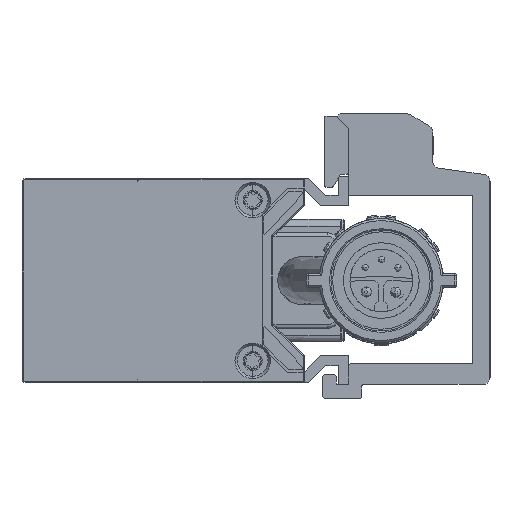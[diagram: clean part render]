
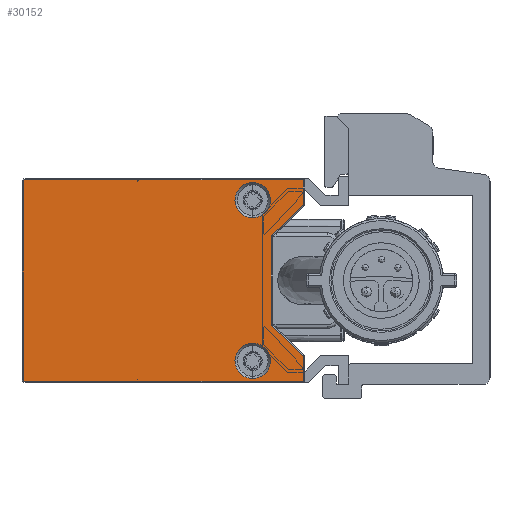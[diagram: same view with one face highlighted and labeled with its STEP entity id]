
A CAD part, left-side view. The second image highlights one B-rep face of the part: STEP entity #30152.
In plain terms, the highlighted planar face has unit normal (-1, 0, 0).
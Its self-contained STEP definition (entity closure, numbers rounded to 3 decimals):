
#296 = CARTESIAN_POINT ( 'NONE',  ( -450., 47.5, -14.8 ) ) ;
#606 = EDGE_LOOP ( 'NONE', ( #40548, #41292, #34625, #60893, #18137, #47678, #31335, #59928, #63552, #1488, #51422, #54455 ) ) ;
#1291 = EDGE_CURVE ( 'NONE', #42163, #47792, #4565, .T. ) ;
#1488 = ORIENTED_EDGE ( 'NONE', *, *, #61665, .T. ) ;
#1619 = AXIS2_PLACEMENT_3D ( 'NONE', #59811, #3216, #23291 ) ;
#1657 = CARTESIAN_POINT ( 'NONE',  ( -450., 11.399, -6.415 ) ) ;
#1764 = CARTESIAN_POINT ( 'NONE',  ( -450., 11.399, -6.415 ) ) ;
#2610 = CARTESIAN_POINT ( 'NONE',  ( -450., 11.278, 6.703 ) ) ;
#2999 = DIRECTION ( 'NONE',  ( -1., 0., 0. ) ) ;
#3216 = DIRECTION ( 'NONE',  ( -1., 0., 0. ) ) ;
#3309 = DIRECTION ( 'NONE',  ( 0., 0.718, -0.696 ) ) ;
#3679 = DIRECTION ( 'NONE',  ( -1., 0., 0. ) ) ;
#3922 = DIRECTION ( 'NONE',  ( 0., 0., 1. ) ) ;
#4565 = LINE ( 'NONE', #65176, #41893 ) ;
#4969 = DIRECTION ( 'NONE',  ( 0., 1., 0. ) ) ;
#5064 = EDGE_CURVE ( 'NONE', #31380, #49254, #8840, .T. ) ;
#5556 = EDGE_CURVE ( 'NONE', #47792, #8364, #44489, .T. ) ;
#5956 = DIRECTION ( 'NONE',  ( 0., 0., -1. ) ) ;
#6373 = CARTESIAN_POINT ( 'NONE',  ( -450., 11.278, -6.703 ) ) ;
#7271 = CARTESIAN_POINT ( 'NONE',  ( -450., 10.999, 6.415 ) ) ;
#7911 = FACE_OUTER_BOUND ( 'NONE', #606, .T. ) ;
#8364 = VERTEX_POINT ( 'NONE', #42660 ) ;
#8840 = LINE ( 'NONE', #60522, #11978 ) ;
#8966 = AXIS2_PLACEMENT_3D ( 'NONE', #62952, #58316, #50052 ) ;
#9145 = AXIS2_PLACEMENT_3D ( 'NONE', #33970, #3679, #29021 ) ;
#9371 = LINE ( 'NONE', #18259, #27014 ) ;
#10664 = CIRCLE ( 'NONE', #21170, 0.4 ) ;
#11978 = VECTOR ( 'NONE', #44046, 1000. ) ;
#12362 = VECTOR ( 'NONE', #56140, 1000. ) ;
#12519 = CARTESIAN_POINT ( 'NONE',  ( -450., 47.8, -14.5 ) ) ;
#12579 = VERTEX_POINT ( 'NONE', #24944 ) ;
#13774 = EDGE_CURVE ( 'NONE', #33523, #50064, #51017, .T. ) ;
#14701 = EDGE_CURVE ( 'NONE', #22560, #12579, #15787, .T. ) ;
#14798 = CARTESIAN_POINT ( 'NONE',  ( -450., 14.134, -14.4 ) ) ;
#15787 = CIRCLE ( 'NONE', #53651, 0.4 ) ;
#16992 = CIRCLE ( 'NONE', #35922, 2.6 ) ;
#18137 = ORIENTED_EDGE ( 'NONE', *, *, #38694, .F. ) ;
#18259 = CARTESIAN_POINT ( 'NONE',  ( -450., 6.7, -14.8 ) ) ;
#19290 = VERTEX_POINT ( 'NONE', #296 ) ;
#19977 = AXIS2_PLACEMENT_3D ( 'NONE', #48072, #2999, #38874 ) ;
#20185 = LINE ( 'NONE', #6373, #12362 ) ;
#20519 = CARTESIAN_POINT ( 'NONE',  ( -450., 6.7, 11.135 ) ) ;
#20737 = CARTESIAN_POINT ( 'NONE',  ( -450., 47.5, -14.5 ) ) ;
#21170 = AXIS2_PLACEMENT_3D ( 'NONE', #50302, #60835, #30855 ) ;
#21731 = DIRECTION ( 'NONE',  ( 1., 0., 0. ) ) ;
#21922 = CARTESIAN_POINT ( 'NONE',  ( -450., 47.8, 14.5 ) ) ;
#22367 = LINE ( 'NONE', #1657, #34179 ) ;
#22521 = CIRCLE ( 'NONE', #43531, 0.3 ) ;
#22560 = VERTEX_POINT ( 'NONE', #2610 ) ;
#22724 = LINE ( 'NONE', #48407, #60061 ) ;
#23291 = DIRECTION ( 'NONE',  ( 0., 0., -1. ) ) ;
#24211 = EDGE_CURVE ( 'NONE', #19290, #38531, #27706, .T. ) ;
#24896 = EDGE_LOOP ( 'NONE', ( #49444, #35665 ) ) ;
#24944 = CARTESIAN_POINT ( 'NONE',  ( -450., 11.399, 6.415 ) ) ;
#26643 = EDGE_CURVE ( 'NONE', #42163, #22560, #22724, .T. ) ;
#27014 = VECTOR ( 'NONE', #44274, 1000. ) ;
#27076 = VECTOR ( 'NONE', #52080, 1000. ) ;
#27706 = LINE ( 'NONE', #42535, #27076 ) ;
#29021 = DIRECTION ( 'NONE',  ( 0., 0., -1. ) ) ;
#30152 = ADVANCED_FACE ( 'NONE', ( #32952, #53024, #7911 ), #58303, .T. ) ;
#30855 = DIRECTION ( 'NONE',  ( 0., 1., 0. ) ) ;
#31335 = ORIENTED_EDGE ( 'NONE', *, *, #40883, .T. ) ;
#31380 = VERTEX_POINT ( 'NONE', #21922 ) ;
#31948 = DIRECTION ( 'NONE',  ( 1., 0., 0. ) ) ;
#32522 = CARTESIAN_POINT ( 'NONE',  ( -450., 11.278, -6.703 ) ) ;
#32952 = FACE_BOUND ( 'NONE', #43754, .T. ) ;
#33523 = VERTEX_POINT ( 'NONE', #56939 ) ;
#33554 = VERTEX_POINT ( 'NONE', #32522 ) ;
#33970 = CARTESIAN_POINT ( 'NONE',  ( -450., 14.134, -11.8 ) ) ;
#34063 = DIRECTION ( 'NONE',  ( 0., 0., 1. ) ) ;
#34179 = VECTOR ( 'NONE', #46750, 1000. ) ;
#34404 = CIRCLE ( 'NONE', #47028, 0.3 ) ;
#34625 = ORIENTED_EDGE ( 'NONE', *, *, #63889, .F. ) ;
#35665 = ORIENTED_EDGE ( 'NONE', *, *, #53450, .F. ) ;
#35922 = AXIS2_PLACEMENT_3D ( 'NONE', #39650, #59723, #34063 ) ;
#37426 = CIRCLE ( 'NONE', #1619, 2.6 ) ;
#38531 = VERTEX_POINT ( 'NONE', #49459 ) ;
#38694 = EDGE_CURVE ( 'NONE', #19290, #49254, #22521, .T. ) ;
#38874 = DIRECTION ( 'NONE',  ( 0., 0., 1. ) ) ;
#39650 = CARTESIAN_POINT ( 'NONE',  ( -450., 14.134, -11.8 ) ) ;
#39918 = CARTESIAN_POINT ( 'NONE',  ( -450., 14.134, 9.2 ) ) ;
#40548 = ORIENTED_EDGE ( 'NONE', *, *, #1291, .T. ) ;
#40706 = ORIENTED_EDGE ( 'NONE', *, *, #63753, .F. ) ;
#40883 = EDGE_CURVE ( 'NONE', #38531, #43048, #9371, .T. ) ;
#41292 = ORIENTED_EDGE ( 'NONE', *, *, #5556, .T. ) ;
#41886 = DIRECTION ( 'NONE',  ( -1., 0., 0. ) ) ;
#41893 = VECTOR ( 'NONE', #3922, 1000. ) ;
#42163 = VERTEX_POINT ( 'NONE', #20519 ) ;
#42535 = CARTESIAN_POINT ( 'NONE',  ( -450., 47.5, -14.8 ) ) ;
#42660 = CARTESIAN_POINT ( 'NONE',  ( -450., 47.5, 14.8 ) ) ;
#43048 = VERTEX_POINT ( 'NONE', #43879 ) ;
#43531 = AXIS2_PLACEMENT_3D ( 'NONE', #20737, #21731, #5956 ) ;
#43754 = EDGE_LOOP ( 'NONE', ( #48395, #40706 ) ) ;
#43879 = CARTESIAN_POINT ( 'NONE',  ( -450., 6.7, -11.135 ) ) ;
#44046 = DIRECTION ( 'NONE',  ( 0., 0., -1. ) ) ;
#44049 = EDGE_CURVE ( 'NONE', #33554, #43048, #20185, .T. ) ;
#44274 = DIRECTION ( 'NONE',  ( 0., 0., 1. ) ) ;
#44489 = LINE ( 'NONE', #64940, #61427 ) ;
#44808 = VERTEX_POINT ( 'NONE', #54741 ) ;
#46750 = DIRECTION ( 'NONE',  ( 0., 0., 1. ) ) ;
#47028 = AXIS2_PLACEMENT_3D ( 'NONE', #62262, #31948, #57318 ) ;
#47678 = ORIENTED_EDGE ( 'NONE', *, *, #24211, .T. ) ;
#47792 = VERTEX_POINT ( 'NONE', #55827 ) ;
#48072 = CARTESIAN_POINT ( 'NONE',  ( -450., 11.199, 0. ) ) ;
#48395 = ORIENTED_EDGE ( 'NONE', *, *, #58979, .F. ) ;
#48407 = CARTESIAN_POINT ( 'NONE',  ( -450., 6.7, 11.135 ) ) ;
#49254 = VERTEX_POINT ( 'NONE', #12519 ) ;
#49366 = VERTEX_POINT ( 'NONE', #1764 ) ;
#49444 = ORIENTED_EDGE ( 'NONE', *, *, #13774, .F. ) ;
#49459 = CARTESIAN_POINT ( 'NONE',  ( -450., 6.7, -14.8 ) ) ;
#50052 = DIRECTION ( 'NONE',  ( 0., 0., 1. ) ) ;
#50064 = VERTEX_POINT ( 'NONE', #39918 ) ;
#50302 = CARTESIAN_POINT ( 'NONE',  ( -450., 10.999, -6.415 ) ) ;
#51017 = CIRCLE ( 'NONE', #8966, 2.6 ) ;
#51422 = ORIENTED_EDGE ( 'NONE', *, *, #14701, .F. ) ;
#52080 = DIRECTION ( 'NONE',  ( 0., -1., 0. ) ) ;
#53024 = FACE_BOUND ( 'NONE', #24896, .T. ) ;
#53450 = EDGE_CURVE ( 'NONE', #50064, #33523, #37426, .T. ) ;
#53651 = AXIS2_PLACEMENT_3D ( 'NONE', #7271, #41886, #61660 ) ;
#54370 = CIRCLE ( 'NONE', #9145, 2.6 ) ;
#54455 = ORIENTED_EDGE ( 'NONE', *, *, #26643, .F. ) ;
#54741 = CARTESIAN_POINT ( 'NONE',  ( -450., 14.134, -9.2 ) ) ;
#55827 = CARTESIAN_POINT ( 'NONE',  ( -450., 6.7, 14.8 ) ) ;
#56140 = DIRECTION ( 'NONE',  ( 0., -0.718, -0.696 ) ) ;
#56939 = CARTESIAN_POINT ( 'NONE',  ( -450., 14.134, 14.4 ) ) ;
#57318 = DIRECTION ( 'NONE',  ( 0., 1., 0. ) ) ;
#58303 = PLANE ( 'NONE',  #19977 ) ;
#58316 = DIRECTION ( 'NONE',  ( -1., 0., 0. ) ) ;
#58915 = EDGE_CURVE ( 'NONE', #49366, #33554, #10664, .T. ) ;
#58979 = EDGE_CURVE ( 'NONE', #44808, #60278, #16992, .T. ) ;
#59723 = DIRECTION ( 'NONE',  ( -1., 0., 0. ) ) ;
#59811 = CARTESIAN_POINT ( 'NONE',  ( -450., 14.134, 11.8 ) ) ;
#59928 = ORIENTED_EDGE ( 'NONE', *, *, #44049, .F. ) ;
#60061 = VECTOR ( 'NONE', #3309, 1000. ) ;
#60278 = VERTEX_POINT ( 'NONE', #14798 ) ;
#60522 = CARTESIAN_POINT ( 'NONE',  ( -450., 47.8, 14.5 ) ) ;
#60835 = DIRECTION ( 'NONE',  ( -1., 0., 0. ) ) ;
#60893 = ORIENTED_EDGE ( 'NONE', *, *, #5064, .T. ) ;
#61427 = VECTOR ( 'NONE', #4969, 1000. ) ;
#61660 = DIRECTION ( 'NONE',  ( 0., 0.696, 0.718 ) ) ;
#61665 = EDGE_CURVE ( 'NONE', #49366, #12579, #22367, .T. ) ;
#62262 = CARTESIAN_POINT ( 'NONE',  ( -450., 47.5, 14.5 ) ) ;
#62952 = CARTESIAN_POINT ( 'NONE',  ( -450., 14.134, 11.8 ) ) ;
#63552 = ORIENTED_EDGE ( 'NONE', *, *, #58915, .F. ) ;
#63753 = EDGE_CURVE ( 'NONE', #60278, #44808, #54370, .T. ) ;
#63889 = EDGE_CURVE ( 'NONE', #31380, #8364, #34404, .T. ) ;
#64940 = CARTESIAN_POINT ( 'NONE',  ( -450., 6.7, 14.8 ) ) ;
#65176 = CARTESIAN_POINT ( 'NONE',  ( -450., 6.7, 11.135 ) ) ;
